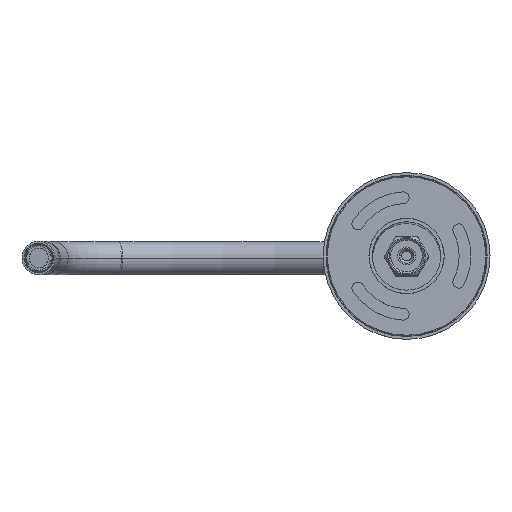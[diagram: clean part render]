
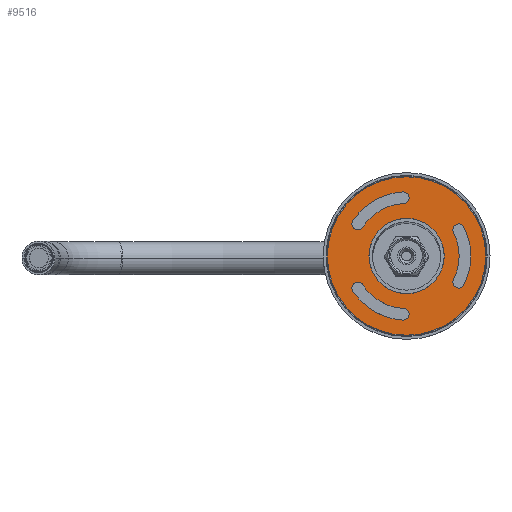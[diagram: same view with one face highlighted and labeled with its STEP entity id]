
A CAD part, top view. The second image highlights one B-rep face of the part: STEP entity #9516.
In plain terms, the highlighted planar face has unit normal (0, 0, 1) as drawn and (0, -1, 0) by its records, which use the part's own axes.
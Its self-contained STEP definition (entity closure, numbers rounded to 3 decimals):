
#9181=CARTESIAN_POINT('',(0.,0.,0.));
#9182=DIRECTION('',(0.,1.,0.));
#9183=DIRECTION('',(1.,0.,0.));
#9184=AXIS2_PLACEMENT_3D('',#9181,#9182,#9183);
#9186=CARTESIAN_POINT('',(0.,0.,0.));
#9187=DIRECTION('',(0.,1.,0.));
#9188=DIRECTION('',(-1.,0.,0.));
#9189=AXIS2_PLACEMENT_3D('',#9186,#9187,#9188);
#9191=CARTESIAN_POINT('',(0.,0.,0.));
#9192=DIRECTION('',(0.,-1.,0.));
#9193=DIRECTION('',(1.,0.,0.));
#9194=AXIS2_PLACEMENT_3D('',#9191,#9192,#9193);
#9196=CARTESIAN_POINT('',(0.,0.,0.));
#9197=DIRECTION('',(0.,-1.,0.));
#9198=DIRECTION('',(-1.,0.,0.));
#9199=AXIS2_PLACEMENT_3D('',#9196,#9197,#9198);
#9201=CARTESIAN_POINT('',(0.,0.,0.));
#9202=DIRECTION('',(0.,1.,0.));
#9203=DIRECTION('',(0.45,0.,-0.893));
#9204=AXIS2_PLACEMENT_3D('',#9201,#9202,#9203);
#9206=CARTESIAN_POINT('',(0.,0.,0.));
#9207=DIRECTION('',(0.,1.,0.));
#9208=DIRECTION('',(0.45,0.,-0.893));
#9209=AXIS2_PLACEMENT_3D('',#9206,#9207,#9208);
#9211=CARTESIAN_POINT('',(0.,0.,0.));
#9212=DIRECTION('',(0.,1.,0.));
#9213=DIRECTION('',(-0.998,0.,0.057));
#9214=AXIS2_PLACEMENT_3D('',#9211,#9212,#9213);
#9216=CARTESIAN_POINT('',(0.,0.,0.));
#9217=DIRECTION('',(0.,1.,0.));
#9218=DIRECTION('',(-0.998,0.,0.057));
#9219=AXIS2_PLACEMENT_3D('',#9216,#9217,#9218);
#9221=CARTESIAN_POINT('',(0.,0.,0.));
#9222=DIRECTION('',(0.,1.,0.));
#9223=DIRECTION('',(0.548,0.,0.836));
#9224=AXIS2_PLACEMENT_3D('',#9221,#9222,#9223);
#9226=CARTESIAN_POINT('',(0.,0.,0.));
#9227=DIRECTION('',(0.,1.,0.));
#9228=DIRECTION('',(0.548,0.,0.836));
#9229=AXIS2_PLACEMENT_3D('',#9226,#9227,#9228);
#9310=CARTESIAN_POINT('',(15.759,0.,-31.251));
#9311=DIRECTION('',(0.,1.,0.));
#9312=DIRECTION('',(-0.45,0.,0.893));
#9313=AXIS2_PLACEMENT_3D('',#9310,#9311,#9312);
#9323=CARTESIAN_POINT('',(-15.759,0.,-31.251));
#9324=DIRECTION('',(0.,1.,0.));
#9325=DIRECTION('',(-0.45,0.,-0.893));
#9326=AXIS2_PLACEMENT_3D('',#9323,#9324,#9325);
#9346=CARTESIAN_POINT('',(-34.944,0.,1.978));
#9347=DIRECTION('',(0.,1.,0.));
#9348=DIRECTION('',(0.998,0.,-0.057));
#9349=AXIS2_PLACEMENT_3D('',#9346,#9347,#9348);
#9359=CARTESIAN_POINT('',(-19.185,0.,29.274));
#9360=DIRECTION('',(0.,1.,0.));
#9361=DIRECTION('',(-0.548,0.,0.836));
#9362=AXIS2_PLACEMENT_3D('',#9359,#9360,#9361);
#9382=CARTESIAN_POINT('',(19.185,0.,29.274));
#9383=DIRECTION('',(0.,1.,0.));
#9384=DIRECTION('',(-0.548,0.,-0.836));
#9385=AXIS2_PLACEMENT_3D('',#9382,#9383,#9384);
#9395=CARTESIAN_POINT('',(34.944,0.,1.978));
#9396=DIRECTION('',(0.,1.,0.));
#9397=DIRECTION('',(0.998,0.,0.057));
#9398=AXIS2_PLACEMENT_3D('',#9395,#9396,#9397);
#9405=CARTESIAN_POINT('',(47.5,0.,0.));
#9406=CARTESIAN_POINT('',(-47.5,0.,0.));
#9407=VERTEX_POINT('',#9405);
#9408=VERTEX_POINT('',#9406);
#9409=CARTESIAN_POINT('',(22.55,0.,0.));
#9410=CARTESIAN_POINT('',(-22.55,0.,0.));
#9411=VERTEX_POINT('',#9409);
#9412=VERTEX_POINT('',#9410);
#9421=CARTESIAN_POINT('',(-17.335,0.,-34.376));
#9423=VERTEX_POINT('',#9421);
#9425=CARTESIAN_POINT('',(-14.183,0.,-28.126));
#9427=VERTEX_POINT('',#9425);
#9430=CARTESIAN_POINT('',(17.335,0.,-34.376));
#9432=VERTEX_POINT('',#9430);
#9434=CARTESIAN_POINT('',(14.183,0.,-28.126));
#9436=VERTEX_POINT('',#9434);
#9437=CARTESIAN_POINT('',(-21.103,0.,32.201));
#9438=CARTESIAN_POINT('',(-17.266,0.,26.346));
#9439=VERTEX_POINT('',#9437);
#9440=VERTEX_POINT('',#9438);
#9449=CARTESIAN_POINT('',(-31.45,0.,1.78));
#9450=CARTESIAN_POINT('',(-38.438,0.,2.175));
#9451=VERTEX_POINT('',#9449);
#9452=VERTEX_POINT('',#9450);
#9453=CARTESIAN_POINT('',(38.438,0.,2.175));
#9454=CARTESIAN_POINT('',(31.45,0.,1.78));
#9455=VERTEX_POINT('',#9453);
#9456=VERTEX_POINT('',#9454);
#9465=CARTESIAN_POINT('',(17.266,0.,26.346));
#9466=CARTESIAN_POINT('',(21.103,0.,32.201));
#9467=VERTEX_POINT('',#9465);
#9468=VERTEX_POINT('',#9466);
#9469=CARTESIAN_POINT('',(0.,0.,0.));
#9470=DIRECTION('',(0.,1.,0.));
#9471=DIRECTION('',(1.,0.,0.));
#9472=AXIS2_PLACEMENT_3D('',#9469,#9470,#9471);
#9473=PLANE('',#9472);
#9475=ORIENTED_EDGE('',*,*,#9474,.T.);
#9477=ORIENTED_EDGE('',*,*,#9476,.T.);
#9478=EDGE_LOOP('',(#9475,#9477));
#9479=FACE_OUTER_BOUND('',#9478,.F.);
#9481=ORIENTED_EDGE('',*,*,#9480,.T.);
#9483=ORIENTED_EDGE('',*,*,#9482,.T.);
#9484=EDGE_LOOP('',(#9481,#9483));
#9485=FACE_BOUND('',#9484,.F.);
#9487=ORIENTED_EDGE('',*,*,#9486,.F.);
#9489=ORIENTED_EDGE('',*,*,#9488,.F.);
#9491=ORIENTED_EDGE('',*,*,#9490,.T.);
#9493=ORIENTED_EDGE('',*,*,#9492,.F.);
#9494=EDGE_LOOP('',(#9487,#9489,#9491,#9493));
#9495=FACE_BOUND('',#9494,.F.);
#9497=ORIENTED_EDGE('',*,*,#9496,.F.);
#9499=ORIENTED_EDGE('',*,*,#9498,.F.);
#9501=ORIENTED_EDGE('',*,*,#9500,.T.);
#9503=ORIENTED_EDGE('',*,*,#9502,.F.);
#9504=EDGE_LOOP('',(#9497,#9499,#9501,#9503));
#9505=FACE_BOUND('',#9504,.F.);
#9507=ORIENTED_EDGE('',*,*,#9506,.F.);
#9509=ORIENTED_EDGE('',*,*,#9508,.F.);
#9511=ORIENTED_EDGE('',*,*,#9510,.T.);
#9513=ORIENTED_EDGE('',*,*,#9512,.F.);
#9514=EDGE_LOOP('',(#9507,#9509,#9511,#9513));
#9515=FACE_BOUND('',#9514,.F.);
#9185=CIRCLE('',#9184,47.5);
#9190=CIRCLE('',#9189,47.5);
#9195=CIRCLE('',#9194,22.55);
#9200=CIRCLE('',#9199,22.55);
#9205=CIRCLE('',#9204,38.5);
#9210=CIRCLE('',#9209,31.5);
#9215=CIRCLE('',#9214,38.5);
#9220=CIRCLE('',#9219,31.5);
#9225=CIRCLE('',#9224,38.5);
#9230=CIRCLE('',#9229,31.5);
#9314=CIRCLE('',#9313,3.5);
#9327=CIRCLE('',#9326,3.5);
#9350=CIRCLE('',#9349,3.5);
#9363=CIRCLE('',#9362,3.5);
#9386=CIRCLE('',#9385,3.5);
#9399=CIRCLE('',#9398,3.5);
#9474=EDGE_CURVE('',#9407,#9408,#9185,.T.);
#9476=EDGE_CURVE('',#9408,#9407,#9190,.T.);
#9480=EDGE_CURVE('',#9411,#9412,#9195,.T.);
#9482=EDGE_CURVE('',#9412,#9411,#9200,.T.);
#9486=EDGE_CURVE('',#9432,#9423,#9205,.T.);
#9488=EDGE_CURVE('',#9436,#9432,#9314,.T.);
#9490=EDGE_CURVE('',#9436,#9427,#9210,.T.);
#9492=EDGE_CURVE('',#9423,#9427,#9327,.T.);
#9496=EDGE_CURVE('',#9452,#9439,#9215,.T.);
#9498=EDGE_CURVE('',#9451,#9452,#9350,.T.);
#9500=EDGE_CURVE('',#9451,#9440,#9220,.T.);
#9502=EDGE_CURVE('',#9439,#9440,#9363,.T.);
#9506=EDGE_CURVE('',#9468,#9455,#9225,.T.);
#9508=EDGE_CURVE('',#9467,#9468,#9386,.T.);
#9510=EDGE_CURVE('',#9467,#9456,#9230,.T.);
#9512=EDGE_CURVE('',#9455,#9456,#9399,.T.);
#9516=ADVANCED_FACE('',(#9479,#9485,#9495,#9505,#9515),#9473,.F.);
